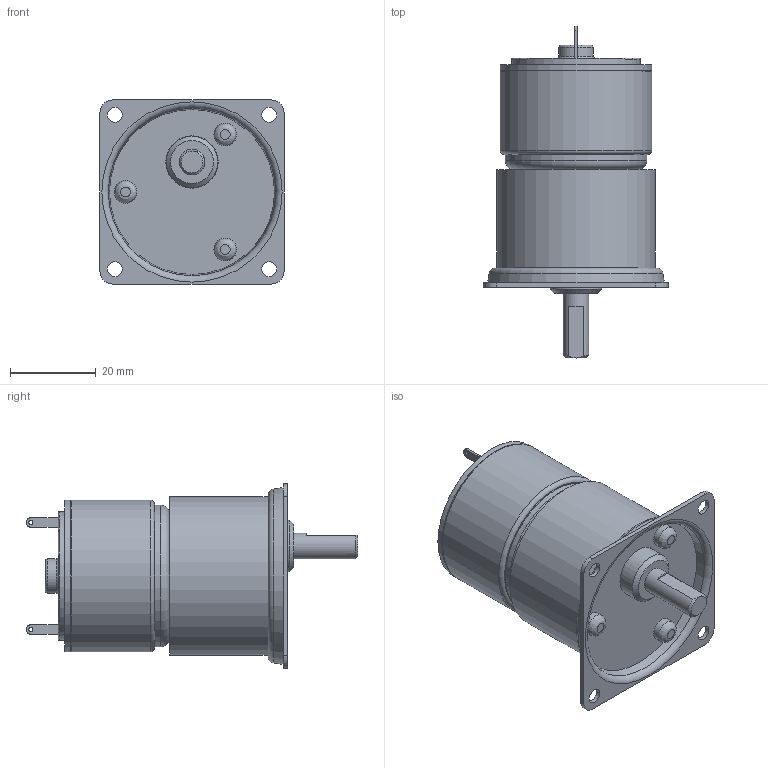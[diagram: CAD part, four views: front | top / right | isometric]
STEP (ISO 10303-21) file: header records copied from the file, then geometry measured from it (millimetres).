
FILE_DESCRIPTION((''),'2;1');
FILE_NAME('C:\Documents and Settings\SSEGAWA\デスクトップ\TP-3526G-PG-3.STP','2013-07-09T17:38:55',('SSEGAWA'),(''),'Autodesk Inventor 2010','Autodesk Inventor 2010','');
FILE_SCHEMA(('CONFIG_CONTROL_DESIGN'));
Length unit declared in the file: millimetre
Products named in the file (5): tp_3526g_pg_3; pg_3; kg_3; □43; tp_3526g
Assembly tree (4 placements, depth 3):
  tp_3526g_pg_3
    pg_3
      kg_3
      □43
    tp_3526g
Bounding box: 43 x 77.5 x 43 mm (x, y, z)
Volume: 52683.8 mm3; surface area: 14877.4 mm2
Topology: 3 solids, 3 shells, 107 faces, 226 edges, 148 vertices
Faces by surface type: plane 41, cylinder 31, bspline 24, torus 6, cone 5
Full cylindrical faces by diameter (mm): 2 x1, 2.4 x1, 4 x3, 5 x2, 5.3 x3, 6 x1, 8 x1, 10 x1, 12 x1, 12.2 x1, 30 x1, 33 x1, 35 x1, 35.4 x2, 37 x1
Entity records: 3085 total; most frequent: CARTESIAN_POINT 969, DIRECTION 439, ORIENTED_EDGE 302, EDGE_LOOP 199, AXIS2_PLACEMENT_3D 198, EDGE_CURVE 151, VERTEX_POINT 128, FACE_OUTER_BOUND 107
